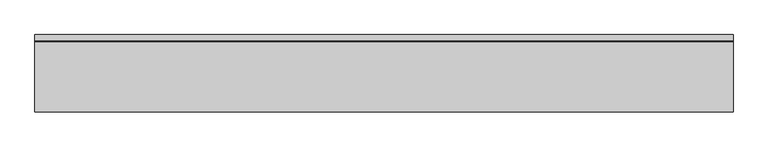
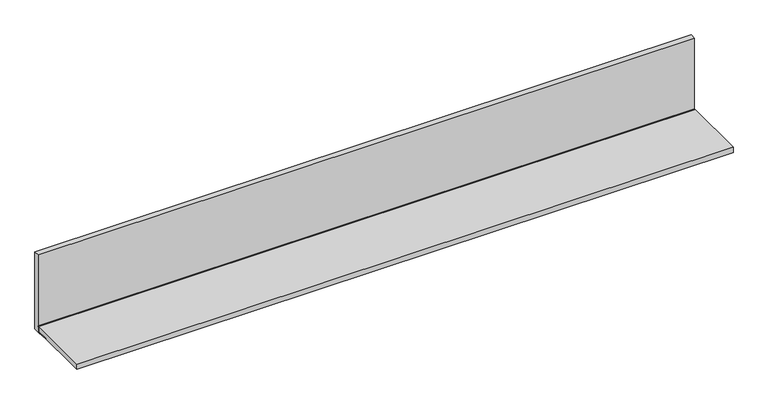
"""IFC4 building model written with IfcOpenShell, lengths in millimetres: furniture geometry, Geiger_GeigerOneCasegoods_OverheadStorageSingleShelfFullBackPanel : Horizontal Veneer 120Wx 13.375Dx 14.875H."""

from ifc_helpers import new_model, si_unit, point, frame, frame_2d, origin, origin_with_axes, place, context, project, spatial, polyline, circle_curve, trimmed, segment, composite_curve, outline, extrude, source, transform, mapped, element, save


def furniture_4b2f0f66(model_context):
    return source(origin(), model_context, "Body", "SweptSolid", [
        extrude(outline(polyline([(3048.0, -6.4077936), (3048.0, -32.4077936), (0.0, -32.4077936), (0.0, -6.4077936), (3048.0, -6.4077936)])), origin_with_axes(), (0.0, 0.0, 1.0), 379.0),
        extrude(outline(composite_curve([segment(polyline([(-33.9043936, 31.496), (-32.4057936, 31.496), (-32.4057936, 0.0)]), True, "CONTINUOUS"), segment(trimmed(circle_curve(frame_2d((-31.5258775, 473.2852461)), 473.2860641), [point((-32.4057936, 0.0))], [point((-93.0584748, 4.0161997))], False, "CARTESIAN"), True, "CONTINUOUS"), segment(trimmed(circle_curve(frame_2d((-92.9289669, 5.0038725)), 0.9961275), [point((-93.0584748, 4.0161997))], [point((-92.9289669, 6.0))], False, "CARTESIAN"), True, "CONTINUOUS"), segment(polyline([(-92.9289669, 6.0), (-38.9077936, 6.0), (-38.9077936, 31.496), (-37.4095936, 31.496), (-37.4095936, 26.4922), (-33.9043936, 26.4922), (-33.9043936, 31.496)]), True, "CONTINUOUS")], self_intersect=False)), frame((0.0, 0.0, 0.0), z_axis=(1.0, 0.0, 0.0), x_axis=(0.0, 1.0, 0.0)), (0.0, 0.0, 1.0), 3048.0),
        extrude(outline(polyline([(3048.0, -38.9077936), (3048.0, -344.4077936), (0.0, -344.4077936), (0.0, -38.9077936), (3048.0, -38.9077936)])), frame((0.0, 0.0, 6.0), z_axis=(0.0, 0.0, 1.0), x_axis=(1.0, 0.0, 0.0)), (0.0, 0.0, 1.0), 26.0),
    ])


if __name__ == "__main__":
    model = new_model("IFC4")
    model_context = context("Model", 3, world=origin())
    ifc_project = project(units=[si_unit("LENGTHUNIT", "METRE", prefix="MILLI")], contexts=[model_context])
    site = spatial("IfcSite", under=ifc_project)
    building = spatial("IfcBuilding", under=site)
    placement = place(None, origin())
    furniture_shape = furniture_4b2f0f66(model_context)
    element("IfcFurniture", 1, ObjectType="Geiger_GeigerOneCasegoods_OverheadStorageSingleShelfFullBackPanel : Horizontal Veneer 120Wx 13.375Dx 14.875H", at=placement, inside=building, context=model_context, shape_type="MappedRepresentation", body=[
        mapped(furniture_shape, transform((0.0, 0.0, 0.0), x_axis=(1.0, 0.0, 0.0), y_axis=(0.0, 1.0, 0.0), z_axis=(0.0, 0.0, 1.0))),
    ])
    save(model, "model.ifc")
